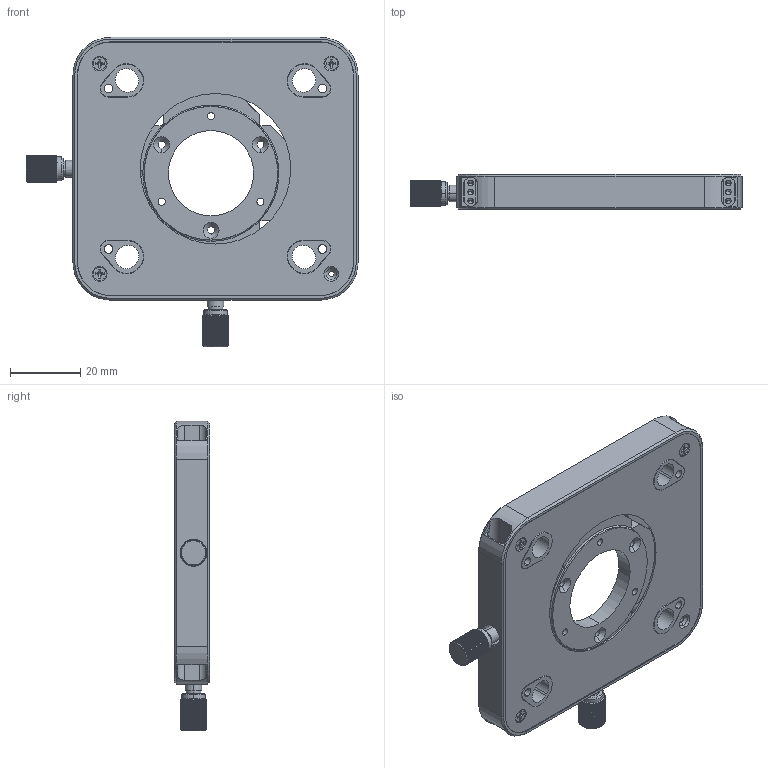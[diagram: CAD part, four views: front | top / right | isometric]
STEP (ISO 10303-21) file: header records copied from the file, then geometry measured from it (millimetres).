
FILE_DESCRIPTION (( 'STEP AP214' ), '1' );
FILE_NAME ('FLX-BXY-2200 (CATALOG MODEL).STEP', '2026-08-04T21:15:36', ( '' ), ( '' ), 'SwSTEP 2.0', 'SolidWorks 2025', '' );
FILE_SCHEMA (( 'AUTOMOTIVE_DESIGN' ));
Length unit declared in the file: inch
Products named in the file (1): FLX-BXY-2200 (CATALOG MODEL)
Bounding box: 94.67 x 10.01 x 88.19 mm (x, y, z)
Volume: 30131.1 mm3; surface area: 36886.3 mm2
Topology: 18 solids, 18 shells, 1520 faces, 4233 edges, 2725 vertices
Faces by surface type: cylinder 701, plane 512, cone 280, bspline 16, torus 7, sphere 4
Entity records: 67557 total; most frequent: CARTESIAN_POINT 22157, ORIENTED_EDGE 8326, DIRECTION 7047, EDGE_CURVE 4163, VERTEX_POINT 2719, AXIS2_PLACEMENT_3D 2643, VECTOR 1761, LINE 1761
